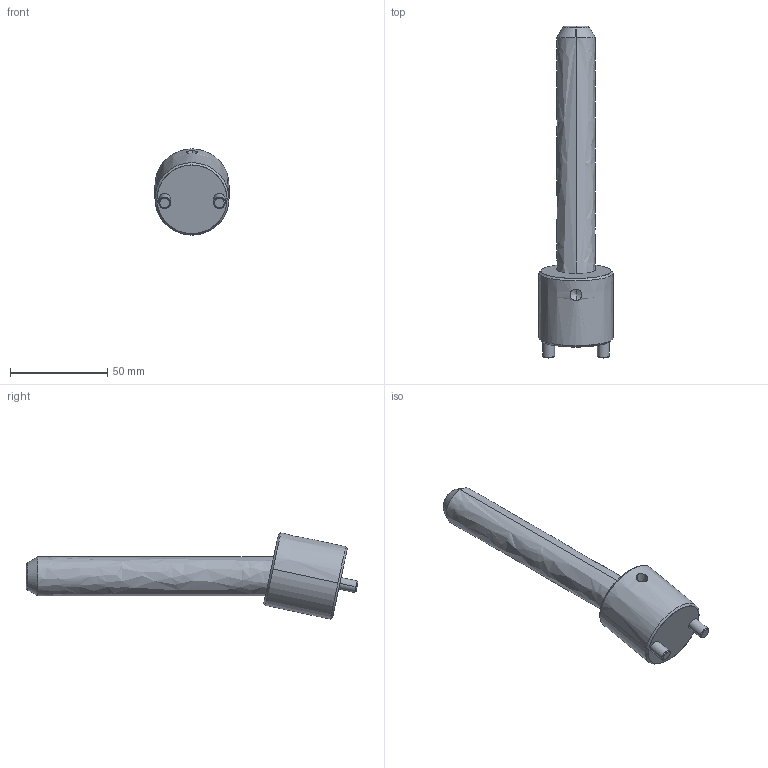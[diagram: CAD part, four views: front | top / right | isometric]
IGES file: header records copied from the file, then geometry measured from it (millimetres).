
Start section: START RECORD GO HERE.
Global section: file name: CI1220125.igs; native system: DASSAULT SYSTEMES CATIA V5 R20 - www.3ds.com; preprocessor: CATIA Version 5 Release 20 ; author: r.borello; organization: CFTORINO; date: 20190621.160606; units: millimetre
Bounding box: 38 x 170.37 x 44.24 mm (x, y, z)
Surface area: 19016.7 mm2 (no closed solid volume)
Topology: 0 solids, 0 shells, 39 faces, 162 edges, 160 vertices
Faces by surface type: revolution 32, plane 7
